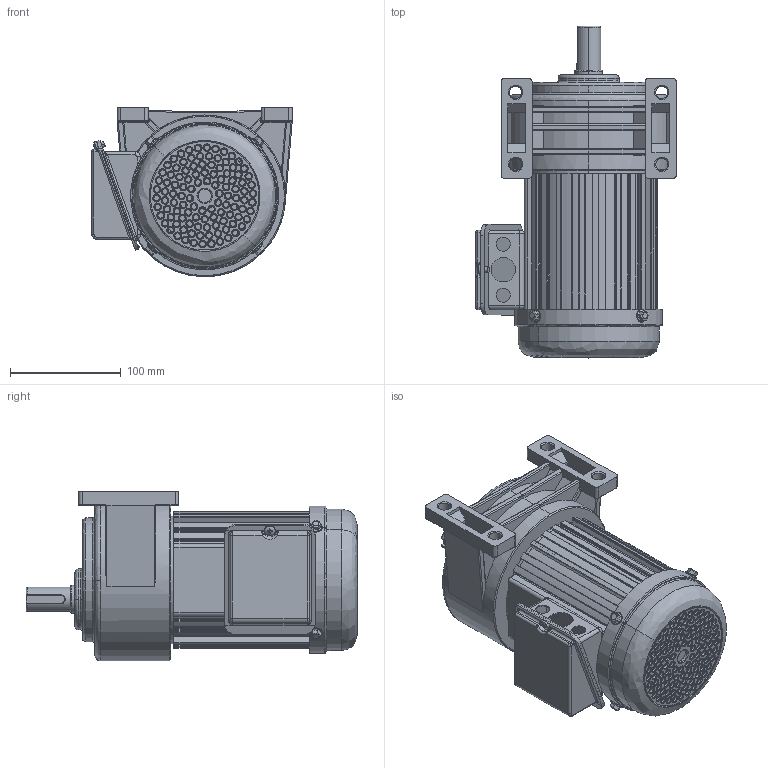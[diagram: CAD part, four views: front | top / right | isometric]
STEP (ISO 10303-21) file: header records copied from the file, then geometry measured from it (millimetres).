
FILE_DESCRIPTION (( 'STEP AP203' ), '1' );
FILE_NAME ('单相200W2#卧式.STEP', '2015-10-23T02:07:17', ( '微软中国' ), ( '微软用户' ), 'SwSTEP 2.0', 'SolidWorks 2009', '' );
FILE_SCHEMA (( 'CONFIG_CONTROL_DESIGN' ));
Products named in the file (11): Hex Flange Bolts-Heavy Grade B GB_GB_FASTENER_BOLT_HFBB M5X10-N; 2#拏宒熬厒ん; 蚾饜极3; 等眈200W2#拏宒; 200W儂褲; 100W綴裔; 瑞欶盓殤; 100W瑞欶; 等眈100W諉盄碟釱; 等眈100W諉盄碟裔; Cross recessed pan head screws GB_GB_CROSS_SCREWS_TYPE1 M5X6-6  H type-N
Assembly tree (16 placements, depth 3):
  等眈200W2#拏宒
    100W瑞欶
    2#拏宒熬厒ん
    Hex Flange Bolts-Heavy Grade B GB_GB_FASTENER_BOLT_HFBB M5X10-N  x4
    瑞欶盓殤  x4
    100W綴裔
    200W儂褲
    蚾饜极3
      等眈100W諉盄碟釱
      Cross recessed pan head screws GB_GB_CROSS_SCREWS_TYPE1 M5X6-6  H type-N
      等眈100W諉盄碟裔
Bounding box: 180.9 x 299.5 x 153 mm (x, y, z)
Volume: 1926527.8 mm3; surface area: 378860.6 mm2
Topology: 15 solids, 15 shells, 1632 faces, 4268 edges, 2662 vertices
Faces by surface type: bspline 692, cylinder 543, plane 337, torus 30, cone 24, sphere 6
Entity records: 62024 total; most frequent: CARTESIAN_POINT 24821, ORIENTED_EDGE 7968, DIRECTION 7245, EDGE_CURVE 3984, AXIS2_PLACEMENT_3D 2933, VERTEX_POINT 2500, CIRCLE 2072, EDGE_LOOP 1806
